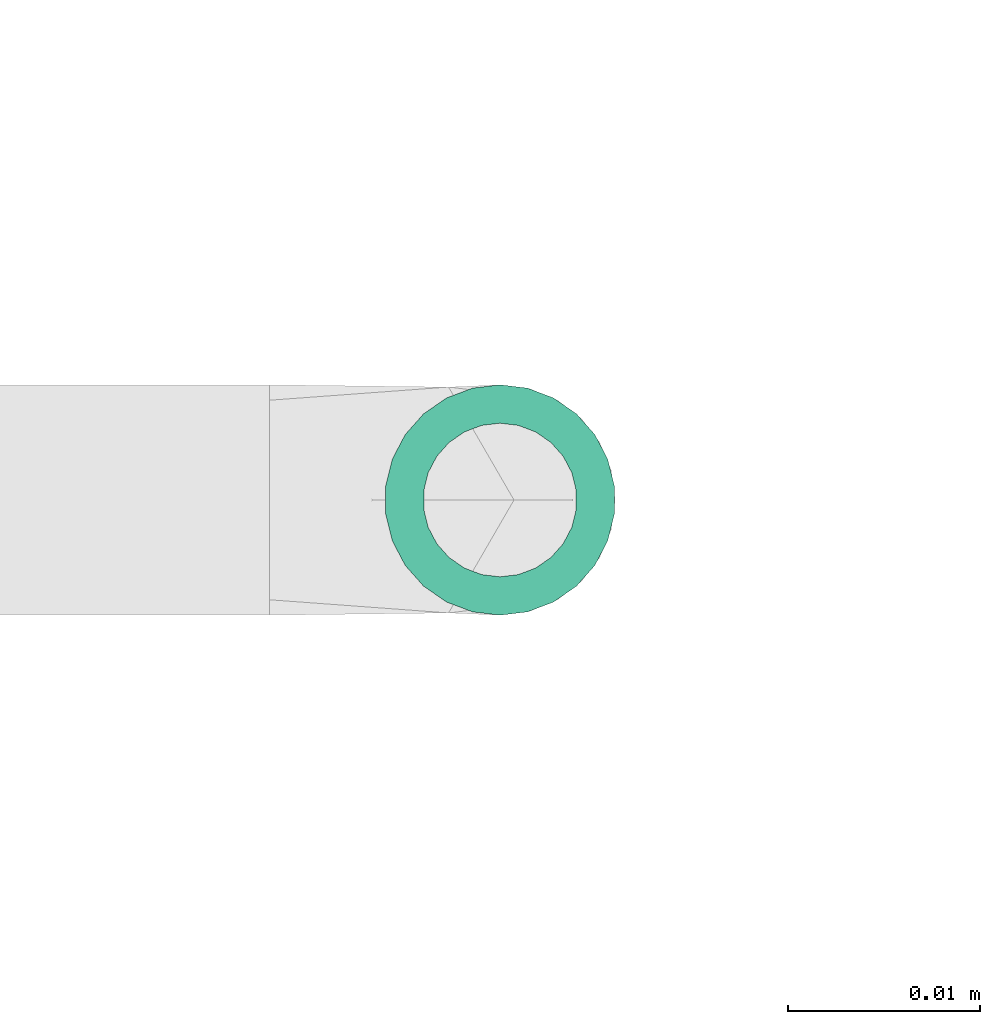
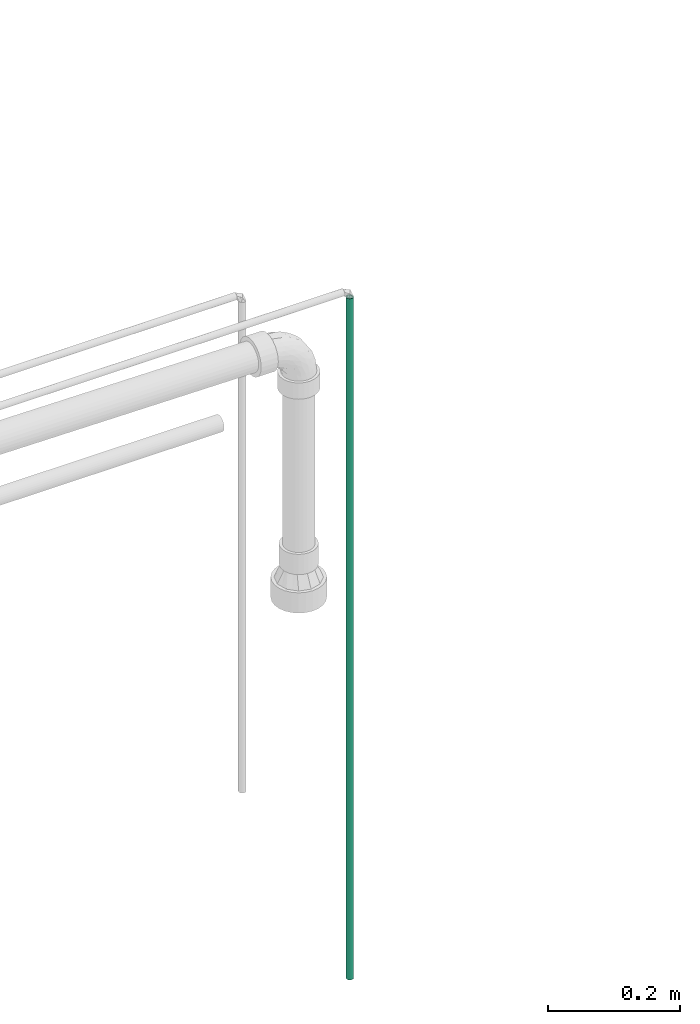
# One storey, part 22 of 108: 1 flow segment.
"""IFC2X3 building model written with IfcOpenShell, lengths in millimetres."""

from ifc_helpers import new_model, entity, si_unit, converted_unit, derived_unit, direction, frame, origin_with_axes, origin_2d_with_axis, place, context, subcontext, project, spatial, hollow_circle, extrude, source, transform, mapped, type_object, element, save


model = new_model("IFC2X3")

# Units and contexts
model_context = context("Model", 3, precision=0.01, world=frame((0.0, 4.29681676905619e-09, 0.0)), true_north=direction((4.01073788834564e-13, 1.0)))
plan_context = context("Plan", 3, precision=0.01, world=frame((0.0, 4.29681676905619e-09, 0.0)), true_north=direction((4.01073788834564e-13, 1.0)))
body_context = subcontext(model_context, "Body", "Model", "MODEL_VIEW")
ifc_project = project(units=[converted_unit("PLANEANGLEUNIT", "DEGREE", entity("IfcPositiveLengthMeasure", 0.0174532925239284), si_unit("PLANEANGLEUNIT", "RADIAN"), dimensions=[0, 0, 0, 0, 0, 0, 0]), si_unit("AREAUNIT", "SQUARE_METRE"), si_unit("LENGTHUNIT", "METRE", prefix="MILLI"), si_unit("MASSUNIT", "GRAM", prefix="KILO"), si_unit("POWERUNIT", "WATT"), si_unit("PRESSUREUNIT", "PASCAL", prefix="KILO"), si_unit("FORCEUNIT", "NEWTON", prefix="KILO"), si_unit("ELECTRICVOLTAGEUNIT", "VOLT"), si_unit("ELECTRICCURRENTUNIT", "AMPERE"), si_unit("THERMODYNAMICTEMPERATUREUNIT", "DEGREE_CELSIUS"), si_unit("TIMEUNIT", "SECOND"), si_unit("VOLUMEUNIT", "CUBIC_METRE"), derived_unit("LINEARVELOCITYUNIT", [(si_unit("LENGTHUNIT", "METRE"), 1), (si_unit("TIMEUNIT", "SECOND"), -1)]), derived_unit("VOLUMETRICFLOWRATEUNIT", [(si_unit("VOLUMEUNIT", "CUBIC_METRE"), 1), (si_unit("TIMEUNIT", "SECOND"), -1)]), derived_unit("THERMALTRANSMITTANCEUNIT", [(si_unit("POWERUNIT", "WATT"), 1), (si_unit("THERMODYNAMICTEMPERATUREUNIT", "KELVIN"), -1), (si_unit("AREAUNIT", "SQUARE_METRE"), -1)]), derived_unit("SOUNDPRESSUREUNIT", [(si_unit("PRESSUREUNIT", "PASCAL"), 1)])], contexts=[model_context, plan_context])

# Site, building, storey
site_placement = place(None, frame((0.0, -4.29681676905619e-09, 0.0), z_axis=(0.0, 0.0, 1.0), x_axis=(1.0, 0.0, 0.0)))
site = spatial("IfcSite", under=ifc_project, at=site_placement, CompositionType="ELEMENT")
building_placement = place(site_placement, frame((0.0, 4.29681676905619e-09, 0.0), z_axis=(0.0, 0.0, 1.0), x_axis=(1.0, 0.0, 0.0)))
building = spatial("IfcBuilding", under=site, at=building_placement, Name="mc-building", CompositionType="ELEMENT")
storey_placement = place(building_placement, frame((0.0, 0.0, 210200.0), z_axis=(0.0, 0.0, 1.0), x_axis=(1.0, 0.0, 0.0)))
storey = spatial("IfcBuildingStorey", under=building, at=storey_placement, Name="Nivå F - 0,7 m", CompositionType="ELEMENT", Elevation=210200.0)

# Flow segment
pipe_segment_type = type_object("IfcPipeSegmentType", Name="Kobberrør", PredefinedType="RIGIDSEGMENT")
shared_shape = source(origin_with_axes(), body_context, "Body", "SweptSolid", [
    extrude(hollow_circle(Radius=6.0, WallThickness=2.0, at=origin_2d_with_axis()), frame((0.0, 0.0, 0.0), z_axis=(1.0, 0.0, 0.0), x_axis=(0.0, 1.0, 0.0)), (0.0, 0.0, 1.0), 1260.7),
])
flow_segment_placement = place(storey_placement, frame((322732.1022, 462097.03657, 558.0), z_axis=(1.0, 0.0, 0.0), x_axis=(0.0, 0.0, -1.0)))
element("IfcFlowSegment", 1, at=flow_segment_placement, inside=storey, type_object=pipe_segment_type, Name="Kobberrør", context=body_context, shape_type="MappedRepresentation", body=[
    mapped(shared_shape, transform((0.0, 0.0, 0.0), scale=1.0)),
])

save(model, "model.ifc")
